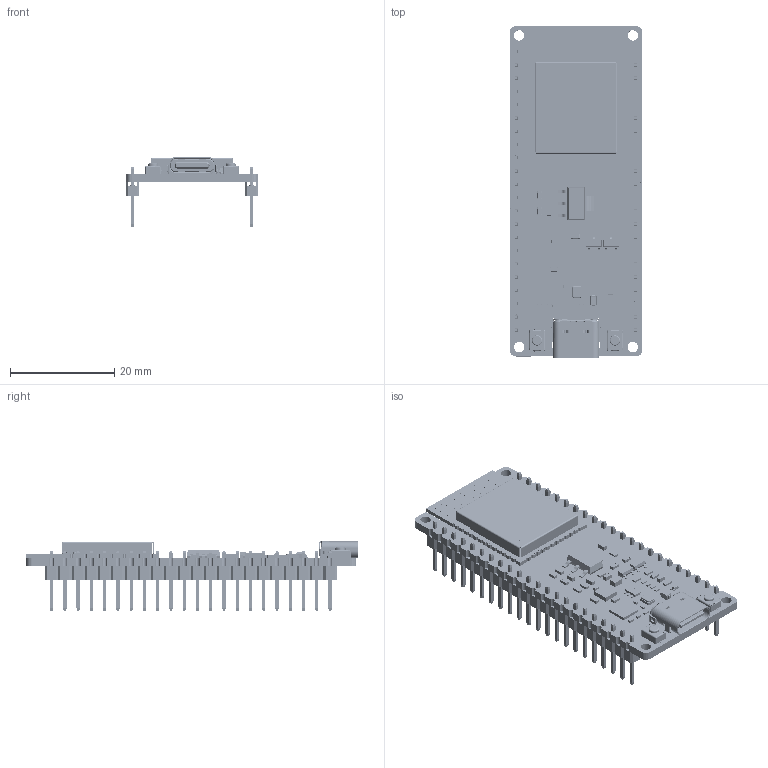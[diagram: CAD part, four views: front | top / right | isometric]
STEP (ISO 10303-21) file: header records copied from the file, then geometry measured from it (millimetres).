
FILE_DESCRIPTION((''),'2;1');
FILE_NAME('ESP32-S3-DEV-KIT-NXRX_ASM','2026-01-10T14:52:54',('ag'),(''),'CREO PARAMETRIC BY PTC INC, 2021063','CREO PARAMETRIC BY PTC INC, 2021063','');
FILE_SCHEMA(('CONFIG_CONTROL_DESIGN','SHAPE_APPEARANCE_LAYERS_GROUPS'));
Products named in the file (358): BOARD; _1_10001; 3_1_A; 2_100; C_0402-672_AF0_ASM_ASM; C_0402-4045_AF0_ASM_ASM; C_0402_ASM; C15_ASM; 2_1_200; _1_1_20001; 3_1_2_A; C_0603-683_AF0_ASM_ASM; C_0603-7177_AF0_ASM_ASM; C_0603_ASM; C16_ASM; _2_1_20001; 5_1_2_A; _7_AF0; R_0402-3099_AF0_ASM_ASM; R_0402-5222_AF0_ASM_ASM; R0402_ASM; R10_ASM; R9_ASM; C11_ASM; C5_ASM; USER_LIBRARY-LED_0603_R_-145436; USER_LIBRARY-LED_0603_R_PAD004; USER_LIBRARY-LED_0603_R_FILLET; USER_LIBRARY-LED_0603_R_-147791; USER_LIBRARY-LED_0603_R_PAD; USER_LIBRARY-LED_0603_R_ASM; LED2_ASM; C0201_20210301_STEP_C0201_20210; C0201_20210301_STEP_SUBM-149603_ASM; SUBMODEL-C0201_PART_DESI-149586_ASM; L0201_20210301_STEP_L0201_20210; L0201_20210301_STEP_SUBM-152333_ASM; SUBMODEL-L0201_PART_DESI-152316_ASM; C0402_20210301_STEP_C0402_20210; C0402_20210301_STEP_SUBMODEL-C0_ASM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
Assembly tree (467 placements, depth 9):
  ESP32-S3-DEV-KIT-NXRX_ASM
    BOARD
    C15_ASM
      C_0402_ASM
        C_0402-4045_AF0_ASM_ASM
          C_0402-672_AF0_ASM_ASM
            _1_10001
            3_1_A
            2_100
    C16_ASM
      C_0603_ASM
        C_0603-7177_AF0_ASM_ASM
          C_0603-683_AF0_ASM_ASM
            2_1_200
            _1_1_20001
            3_1_2_A
    R10_ASM
      R0402_ASM
        R_0402-5222_AF0_ASM_ASM
          R_0402-3099_AF0_ASM_ASM
            _2_1_20001
            5_1_2_A
            _7_AF0
    R9_ASM
      R0402_ASM
        R_0402-5222_AF0_ASM_ASM
          R_0402-3099_AF0_ASM_ASM
            _2_1_20001
            5_1_2_A
            _7_AF0
    C11_ASM
      C_0603_ASM
        C_0603-7177_AF0_ASM_ASM
          C_0603-683_AF0_ASM_ASM
            2_1_200
            _1_1_20001
            3_1_2_A
    C5_ASM
      C_0603_ASM
        C_0603-7177_AF0_ASM_ASM
          C_0603-683_AF0_ASM_ASM
            2_1_200
            _1_1_20001
            3_1_2_A
    LED2_ASM
      USER_LIBRARY-LED_0603_R_ASM
        USER_LIBRARY-LED_0603_R_-145436
        USER_LIBRARY-LED_0603_R_PAD004
        USER_LIBRARY-LED_0603_R_FILLET
        USER_LIBRARY-LED_0603_R_-147791
        USER_LIBRARY-LED_0603_R_PAD
    U1_ASM
      ESP32-S3-WROOM-1_ASM
        PCB_ESP32-S3-WROOM-1_V1_2__PCB__ASM
          DESIGNROOTMODEL_PCB_ESP32-S3-WR_ASM
            SUBMODEL-C0201_PART_DESI-149586_ASM
              C0201_20210301_STEP_SUBM-149603_ASM
                C0201_20210301_STEP_C0201_20210
            SUBMODEL-L0201_PART_DESI-152316_ASM
              L0201_20210301_STEP_SUBM-152333_ASM
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Bounding box: 25.42 x 63.6 x 13.35 mm (x, y, z)
Volume: 3803.5 mm3; surface area: 9609 mm2
Topology: 419 solids, 433 shells, 19328 faces, 50492 edges, 32880 vertices
Faces by surface type: plane 14436, extrusion 2323, cylinder 2193, sphere 306, cone 36, torus 24, bspline 10
Entity records: 304032 total; most frequent: CARTESIAN_POINT 55986, ORIENTED_EDGE 40206, DIRECTION 38958, EDGE_CURVE 20104, VECTOR 16636, LINE 16216, PRESENTATION_STYLE_ASSIGNMENT 14256, STYLED_ITEM 13734
